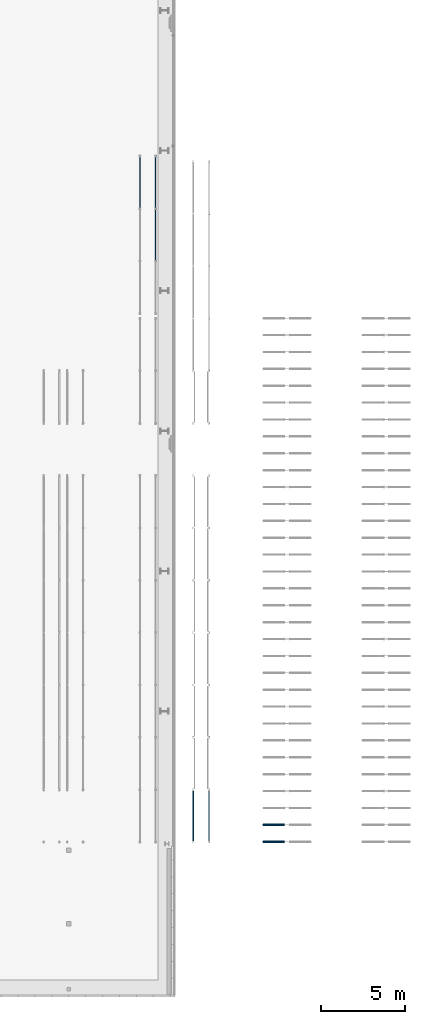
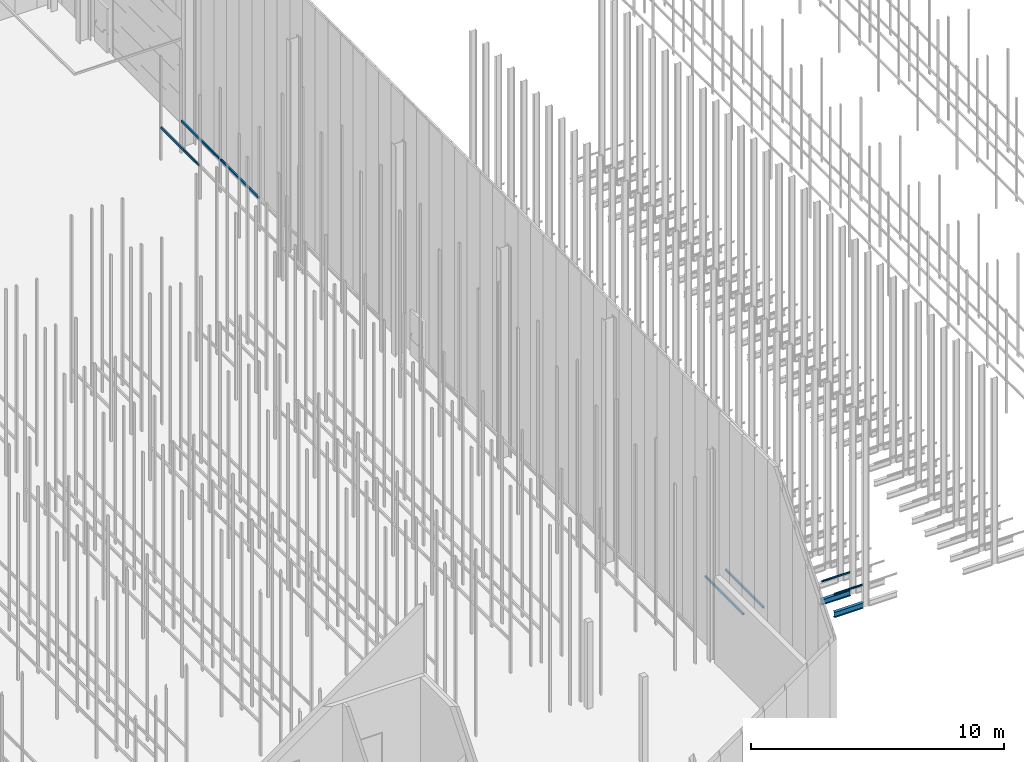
# One storey, part 157 of 302: 9 beams.
"""IFC2X3 building model written with IfcOpenShell, lengths in metres."""

from ifc_helpers import new_model, entity, si_unit, converted_unit, derived_unit, direction, frame, frame_2d, origin, place, context, subcontext, project, spatial, polyline, circle_curve, parameter, trimmed, segment, composite_curve, i_section, outline, extrude, material, type_object, element, save


model = new_model("IFC2X3")

# Units and contexts
model_context = context("Model", 3, precision=1e-05, world=origin(), true_north=direction((6.12303176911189e-17, 1.0)))
body_context = subcontext(model_context, "Body", "Model", "MODEL_VIEW")
ifc_project = project(units=[si_unit("LENGTHUNIT", "METRE"), si_unit("AREAUNIT", "SQUARE_METRE"), si_unit("VOLUMEUNIT", "CUBIC_METRE"), converted_unit("PLANEANGLEUNIT", "DEGREE", entity("IfcRatioMeasure", 0.0174532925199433), si_unit("PLANEANGLEUNIT", "RADIAN"), dimensions=[0, 0, 0, 0, 0, 0, 0]), si_unit("MASSUNIT", "GRAM", prefix="KILO"), derived_unit("MASSDENSITYUNIT", [(si_unit("MASSUNIT", "GRAM", prefix="KILO"), 1), (si_unit("LENGTHUNIT", "METRE"), -3)]), derived_unit("MOMENTOFINERTIAUNIT", [(si_unit("LENGTHUNIT", "METRE"), 4)]), si_unit("TIMEUNIT", "SECOND"), si_unit("FREQUENCYUNIT", "HERTZ"), si_unit("THERMODYNAMICTEMPERATUREUNIT", "DEGREE_CELSIUS"), derived_unit("THERMALTRANSMITTANCEUNIT", [(si_unit("MASSUNIT", "GRAM", prefix="KILO"), 1), (si_unit("THERMODYNAMICTEMPERATUREUNIT", "KELVIN"), -1), (si_unit("TIMEUNIT", "SECOND"), -3)]), derived_unit("VOLUMETRICFLOWRATEUNIT", [(si_unit("LENGTHUNIT", "METRE"), 3), (si_unit("TIMEUNIT", "SECOND"), -1)]), si_unit("ELECTRICCURRENTUNIT", "AMPERE"), si_unit("ELECTRICVOLTAGEUNIT", "VOLT"), si_unit("POWERUNIT", "WATT"), si_unit("FORCEUNIT", "NEWTON", prefix="KILO"), si_unit("ILLUMINANCEUNIT", "LUX"), si_unit("LUMINOUSFLUXUNIT", "LUMEN"), si_unit("LUMINOUSINTENSITYUNIT", "CANDELA"), derived_unit("USERDEFINED", [(si_unit("MASSUNIT", "GRAM", prefix="KILO"), -1), (si_unit("LENGTHUNIT", "METRE"), -2), (si_unit("TIMEUNIT", "SECOND"), 3), (si_unit("LUMINOUSFLUXUNIT", "LUMEN"), 1)]), derived_unit("LINEARVELOCITYUNIT", [(si_unit("LENGTHUNIT", "METRE"), 1), (si_unit("TIMEUNIT", "SECOND"), -1)]), si_unit("PRESSUREUNIT", "PASCAL"), derived_unit("USERDEFINED", [(si_unit("LENGTHUNIT", "METRE"), -2), (si_unit("MASSUNIT", "GRAM", prefix="KILO"), 1), (si_unit("TIMEUNIT", "SECOND"), -2)]), derived_unit("LINEARFORCEUNIT", [(si_unit("MASSUNIT", "GRAM", prefix="KILO"), 1), (si_unit("LENGTHUNIT", "METRE"), 1), (si_unit("TIMEUNIT", "SECOND"), -2), (si_unit("LENGTHUNIT", "METRE"), -1)]), derived_unit("PLANARFORCEUNIT", [(si_unit("MASSUNIT", "GRAM", prefix="KILO"), 1), (si_unit("LENGTHUNIT", "METRE"), 1), (si_unit("TIMEUNIT", "SECOND"), -2), (si_unit("LENGTHUNIT", "METRE"), -2)])], contexts=[model_context])

# Site, building, storey
site_placement = place(None, origin())
site = spatial("IfcSite", under=ifc_project, at=site_placement, Name="Default", CompositionType="ELEMENT")
building_placement = place(site_placement, origin())
building = spatial("IfcBuilding", under=site, at=building_placement, CompositionType="ELEMENT")
storey_placement = place(building_placement, frame((0.0, 0.0, -1.3)))
storey = spatial("IfcBuildingStorey", under=building, at=storey_placement, Name="00_EG", CompositionType="ELEMENT", Elevation=-1.3)

# Beams
ifc_material_1 = material(Name="Metall - Baustahl S235 blau")
beam_type_1 = type_object("IfcBeamType", Name="RHS Träger (EN 10219-2):RHS 100 x 75 x 5", PredefinedType="NOTDEFINED")
beam_1_placement = place(storey_placement, frame((-179.315111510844, 61.5488562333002, 2.885), z_axis=(0.0, 0.0, 1.0), x_axis=(0.0, 1.0, 0.0)))
element("IfcBeam", 1, at=beam_1_placement, inside=storey, type_object=beam_type_1, material=ifc_material_1, Name="RHS Träger (EN 10219-2):RHS 100 x 75 x 5", ObjectType="RHS Träger (EN 10219-2):RHS 100 x 75 x 5", context=body_context, shape_type="SweptSolid", body=[
    extrude(outline(composite_curve([segment(trimmed(circle_curve(frame_2d((-0.0274999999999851, -0.0400000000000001), x_axis=(1.0, 0.0)), 0.01), [parameter(180.0)], [parameter(270.0)], True, "PARAMETER"), True, "CONTINUOUS"), segment(polyline([(-0.0274999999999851, -0.0500000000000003), (0.0274999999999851, -0.0500000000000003)]), True, "CONTINUOUS"), segment(trimmed(circle_curve(frame_2d((0.0274999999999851, -0.0400000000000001), x_axis=(1.0, 0.0)), 0.01), [parameter(270.0)], [parameter(5.08888749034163e-14)], True, "PARAMETER"), True, "CONTINUOUS"), segment(polyline([(0.0375000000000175, -0.0400000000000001), (0.0375000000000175, 0.0399999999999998)]), True, "CONTINUOUS"), segment(trimmed(circle_curve(frame_2d((0.0274999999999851, 0.0399999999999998), x_axis=(1.0, 0.0)), 0.01), [parameter(360.0)], [parameter(89.9999999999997)], True, "PARAMETER"), True, "CONTINUOUS"), segment(polyline([(0.0274999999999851, 0.0499999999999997), (-0.0274999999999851, 0.0499999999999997)]), True, "CONTINUOUS"), segment(trimmed(circle_curve(frame_2d((-0.0274999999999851, 0.0399999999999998), x_axis=(1.0, 0.0)), 0.01), [parameter(90.0000000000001)], [parameter(180.0)], True, "PARAMETER"), True, "CONTINUOUS"), segment(polyline([(-0.0374999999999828, 0.0399999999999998), (-0.0374999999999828, -0.0400000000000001)]), True, "CONTINUOUS")], self_intersect=False), holes=[composite_curve([segment(polyline([(0.0274999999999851, -0.0450000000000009), (-0.0274999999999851, -0.0450000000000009)]), True, "CONTINUOUS"), segment(trimmed(circle_curve(frame_2d((-0.0274999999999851, -0.0400000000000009), x_axis=(1.0, 0.0)), 0.005), [parameter(180.0)], [parameter(270.0)], True, "PARAMETER"), False, "CONTINUOUS"), segment(polyline([(-0.0325000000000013, -0.0400000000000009), (-0.0325000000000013, 0.039999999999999)]), True, "CONTINUOUS"), segment(trimmed(circle_curve(frame_2d((-0.0274999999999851, 0.039999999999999), x_axis=(1.0, 0.0)), 0.005), [parameter(90.0000000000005)], [parameter(180.0)], True, "PARAMETER"), False, "CONTINUOUS"), segment(polyline([(-0.0274999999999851, 0.044999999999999), (0.0274999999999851, 0.044999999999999)]), True, "CONTINUOUS"), segment(trimmed(circle_curve(frame_2d((0.0274999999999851, 0.039999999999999), x_axis=(1.0, 0.0)), 0.005), [parameter(0.0)], [parameter(90.0000000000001)], True, "PARAMETER"), False, "CONTINUOUS"), segment(polyline([(0.0325000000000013, 0.039999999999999), (0.0325000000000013, -0.0400000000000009)]), True, "CONTINUOUS"), segment(trimmed(circle_curve(frame_2d((0.0274999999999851, -0.0400000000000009), x_axis=(1.0, 0.0)), 0.005), [parameter(270.0)], [parameter(4.07110999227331e-13)], True, "PARAMETER"), False, "CONTINUOUS")], self_intersect=False)]), frame((-0.000799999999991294, 0.0375000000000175, -0.0500000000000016), z_axis=(1.0, 0.0, 0.0), x_axis=(0.0, -1.0, 0.0)), (0.0, 0.0, 1.0), 3.00069999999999),
])
beam_2_placement = place(storey_placement, frame((-178.465111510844, 61.5488562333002, 2.885), z_axis=(0.0, 0.0, 1.0), x_axis=(0.0, 1.0, 0.0)))
element("IfcBeam", 2, at=beam_2_placement, inside=storey, type_object=beam_type_1, material=ifc_material_1, Name="RHS Träger (EN 10219-2):RHS 100 x 75 x 5", ObjectType="RHS Träger (EN 10219-2):RHS 100 x 75 x 5", context=body_context, shape_type="SweptSolid", body=[
    extrude(outline(composite_curve([segment(polyline([(-0.0399999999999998, -0.0374999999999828), (0.0400000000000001, -0.0374999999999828)]), True, "CONTINUOUS"), segment(trimmed(circle_curve(frame_2d((0.0400000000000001, -0.0274999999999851), x_axis=(0.0, 1.0)), 0.01), [parameter(180.0)], [parameter(270.0)], True, "PARAMETER"), True, "CONTINUOUS"), segment(polyline([(0.05, -0.0274999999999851), (0.05, 0.0274999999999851)]), True, "CONTINUOUS"), segment(trimmed(circle_curve(frame_2d((0.0400000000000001, 0.0274999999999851), x_axis=(0.0, 1.0)), 0.01), [parameter(270.0)], [parameter(4.07110999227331e-13)], True, "PARAMETER"), True, "CONTINUOUS"), segment(polyline([(0.0400000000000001, 0.0375000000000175), (-0.0399999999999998, 0.0375000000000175)]), True, "CONTINUOUS"), segment(trimmed(circle_curve(frame_2d((-0.0399999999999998, 0.0274999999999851), x_axis=(0.0, 1.0)), 0.01), [parameter(360.0)], [parameter(90.0000000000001)], True, "PARAMETER"), True, "CONTINUOUS"), segment(polyline([(-0.05, 0.0274999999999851), (-0.05, -0.0274999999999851)]), True, "CONTINUOUS"), segment(trimmed(circle_curve(frame_2d((-0.0399999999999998, -0.0274999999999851), x_axis=(0.0, 1.0)), 0.01), [parameter(90.0000000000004)], [parameter(180.0)], True, "PARAMETER"), True, "CONTINUOUS")], self_intersect=False), holes=[composite_curve([segment(trimmed(circle_curve(frame_2d((-0.0400000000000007, 0.0274999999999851), x_axis=(0.0, 1.0)), 0.005), [parameter(360.0)], [parameter(89.9999999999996)], True, "PARAMETER"), False, "CONTINUOUS"), segment(polyline([(-0.0400000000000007, 0.0325000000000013), (0.0399999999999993, 0.0325000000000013)]), True, "CONTINUOUS"), segment(trimmed(circle_curve(frame_2d((0.0399999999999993, 0.0274999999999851), x_axis=(0.0, 1.0)), 0.005), [parameter(270.0)], [parameter(0.0)], True, "PARAMETER"), False, "CONTINUOUS"), segment(polyline([(0.0449999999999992, 0.0274999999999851), (0.0449999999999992, -0.0274999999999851)]), True, "CONTINUOUS"), segment(trimmed(circle_curve(frame_2d((0.0399999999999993, -0.0274999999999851), x_axis=(0.0, 1.0)), 0.005), [parameter(180.0)], [parameter(269.999999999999)], True, "PARAMETER"), False, "CONTINUOUS"), segment(polyline([(0.0399999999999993, -0.0325000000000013), (-0.0400000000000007, -0.0325000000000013)]), True, "CONTINUOUS"), segment(trimmed(circle_curve(frame_2d((-0.0400000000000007, -0.0274999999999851), x_axis=(0.0, 1.0)), 0.005), [parameter(90.0000000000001)], [parameter(180.0)], True, "PARAMETER"), False, "CONTINUOUS"), segment(polyline([(-0.0450000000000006, -0.0274999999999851), (-0.0450000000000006, 0.0274999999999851)]), True, "CONTINUOUS")], self_intersect=False)]), frame((-0.000799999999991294, -0.0375000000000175, -0.0500000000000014), z_axis=(1.0, 0.0, 0.0), x_axis=(0.0, 0.0, -1.0)), (0.0, 0.0, 1.0), 3.00069999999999),
])
beam_3_placement = place(storey_placement, frame((-178.465111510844, 58.4480889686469, 2.885), z_axis=(0.0, 0.0, 1.0), x_axis=(0.0, 1.0, 0.0)))
element("IfcBeam", 3, at=beam_3_placement, inside=storey, type_object=beam_type_1, material=ifc_material_1, Name="RHS Träger (EN 10219-2):RHS 100 x 75 x 5", ObjectType="RHS Träger (EN 10219-2):RHS 100 x 75 x 5", context=body_context, shape_type="SweptSolid", body=[
    extrude(outline(composite_curve([segment(polyline([(-0.0399999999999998, -0.0374999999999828), (0.0400000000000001, -0.0374999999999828)]), True, "CONTINUOUS"), segment(trimmed(circle_curve(frame_2d((0.0399999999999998, -0.0274999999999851), x_axis=(0.0, 1.0)), 0.01), [parameter(180.0)], [parameter(270.0)], True, "PARAMETER"), True, "CONTINUOUS"), segment(polyline([(0.05, -0.0274999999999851), (0.05, 0.0274999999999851)]), True, "CONTINUOUS"), segment(trimmed(circle_curve(frame_2d((0.0399999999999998, 0.0274999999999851), x_axis=(0.0, 1.0)), 0.01), [parameter(270.0)], [parameter(4.07110999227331e-13)], True, "PARAMETER"), True, "CONTINUOUS"), segment(polyline([(0.0400000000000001, 0.0375000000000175), (-0.0399999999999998, 0.0375000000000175)]), True, "CONTINUOUS"), segment(trimmed(circle_curve(frame_2d((-0.0400000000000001, 0.0274999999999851), x_axis=(0.0, 1.0)), 0.01), [parameter(360.0)], [parameter(90.0000000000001)], True, "PARAMETER"), True, "CONTINUOUS"), segment(polyline([(-0.05, 0.0274999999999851), (-0.05, -0.0274999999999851)]), True, "CONTINUOUS"), segment(trimmed(circle_curve(frame_2d((-0.0400000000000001, -0.0274999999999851), x_axis=(0.0, 1.0)), 0.01), [parameter(90.0000000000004)], [parameter(180.0)], True, "PARAMETER"), True, "CONTINUOUS")], self_intersect=False), holes=[composite_curve([segment(trimmed(circle_curve(frame_2d((-0.0400000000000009, 0.0274999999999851), x_axis=(0.0, 1.0)), 0.005), [parameter(360.0)], [parameter(89.9999999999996)], True, "PARAMETER"), False, "CONTINUOUS"), segment(polyline([(-0.0400000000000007, 0.0325000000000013), (0.0399999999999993, 0.0325000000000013)]), True, "CONTINUOUS"), segment(trimmed(circle_curve(frame_2d((0.039999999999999, 0.0274999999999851), x_axis=(0.0, 1.0)), 0.005), [parameter(270.0)], [parameter(0.0)], True, "PARAMETER"), False, "CONTINUOUS"), segment(polyline([(0.0449999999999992, 0.0274999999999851), (0.0449999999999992, -0.0274999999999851)]), True, "CONTINUOUS"), segment(trimmed(circle_curve(frame_2d((0.039999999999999, -0.0274999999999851), x_axis=(0.0, 1.0)), 0.005), [parameter(180.0)], [parameter(269.999999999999)], True, "PARAMETER"), False, "CONTINUOUS"), segment(polyline([(0.0399999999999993, -0.0325000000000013), (-0.0400000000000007, -0.0325000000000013)]), True, "CONTINUOUS"), segment(trimmed(circle_curve(frame_2d((-0.0400000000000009, -0.0274999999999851), x_axis=(0.0, 1.0)), 0.005), [parameter(90.0000000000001)], [parameter(180.0)], True, "PARAMETER"), False, "CONTINUOUS"), segment(polyline([(-0.0450000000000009, -0.0274999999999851), (-0.0450000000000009, 0.0274999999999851)]), True, "CONTINUOUS")], self_intersect=False)]), frame((9.99999999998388e-05, -0.0375000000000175, -0.0500000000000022), z_axis=(1.0, 0.0, 0.0), x_axis=(0.0, 0.0, -1.0)), (0.0, 0.0, 1.0), 2.99979999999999),
])
beam_4_placement = place(storey_placement, frame((-175.305111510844, 24.048088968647, 2.885), z_axis=(0.0, 0.0, 1.0), x_axis=(0.0, 1.0, 0.0)))
element("IfcBeam", 4, at=beam_4_placement, inside=storey, type_object=beam_type_1, material=ifc_material_1, Name="RHS Träger (EN 10219-2):RHS 100 x 75 x 5", ObjectType="RHS Träger (EN 10219-2):RHS 100 x 75 x 5", context=body_context, shape_type="SweptSolid", body=[
    extrude(outline(composite_curve([segment(polyline([(-0.0399999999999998, -0.0374999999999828), (0.0400000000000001, -0.0374999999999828)]), True, "CONTINUOUS"), segment(trimmed(circle_curve(frame_2d((0.0399999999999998, -0.0274999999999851), x_axis=(0.0, 1.0)), 0.01), [parameter(180.0)], [parameter(270.0)], True, "PARAMETER"), True, "CONTINUOUS"), segment(polyline([(0.05, -0.0274999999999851), (0.05, 0.0274999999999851)]), True, "CONTINUOUS"), segment(trimmed(circle_curve(frame_2d((0.0399999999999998, 0.0274999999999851), x_axis=(0.0, 1.0)), 0.01), [parameter(270.0)], [parameter(4.07110999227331e-13)], True, "PARAMETER"), True, "CONTINUOUS"), segment(polyline([(0.0400000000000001, 0.0375000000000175), (-0.0399999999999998, 0.0375000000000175)]), True, "CONTINUOUS"), segment(trimmed(circle_curve(frame_2d((-0.0400000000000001, 0.0274999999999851), x_axis=(0.0, 1.0)), 0.01), [parameter(360.0)], [parameter(90.0000000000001)], True, "PARAMETER"), True, "CONTINUOUS"), segment(polyline([(-0.05, 0.0274999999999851), (-0.05, -0.0274999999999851)]), True, "CONTINUOUS"), segment(trimmed(circle_curve(frame_2d((-0.0400000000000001, -0.0274999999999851), x_axis=(0.0, 1.0)), 0.01), [parameter(90.0000000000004)], [parameter(180.0)], True, "PARAMETER"), True, "CONTINUOUS")], self_intersect=False), holes=[composite_curve([segment(trimmed(circle_curve(frame_2d((-0.0400000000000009, 0.0274999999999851), x_axis=(0.0, 1.0)), 0.005), [parameter(360.0)], [parameter(89.9999999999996)], True, "PARAMETER"), False, "CONTINUOUS"), segment(polyline([(-0.0400000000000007, 0.0325000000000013), (0.0399999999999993, 0.0325000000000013)]), True, "CONTINUOUS"), segment(trimmed(circle_curve(frame_2d((0.039999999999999, 0.0274999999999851), x_axis=(0.0, 1.0)), 0.005), [parameter(270.0)], [parameter(0.0)], True, "PARAMETER"), False, "CONTINUOUS"), segment(polyline([(0.0449999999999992, 0.0274999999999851), (0.0449999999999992, -0.0274999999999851)]), True, "CONTINUOUS"), segment(trimmed(circle_curve(frame_2d((0.039999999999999, -0.0274999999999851), x_axis=(0.0, 1.0)), 0.005), [parameter(180.0)], [parameter(269.999999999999)], True, "PARAMETER"), False, "CONTINUOUS"), segment(polyline([(0.0399999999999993, -0.0325000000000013), (-0.0400000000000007, -0.0325000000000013)]), True, "CONTINUOUS"), segment(trimmed(circle_curve(frame_2d((-0.0400000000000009, -0.0274999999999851), x_axis=(0.0, 1.0)), 0.005), [parameter(90.0000000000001)], [parameter(180.0)], True, "PARAMETER"), False, "CONTINUOUS"), segment(polyline([(-0.0450000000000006, -0.0274999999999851), (-0.0450000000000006, 0.0274999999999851)]), True, "CONTINUOUS")], self_intersect=False)]), frame((9.99999999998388e-05, -0.0375000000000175, -0.0500000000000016), z_axis=(1.0, 0.0, 0.0), x_axis=(0.0, 0.0, -1.0)), (0.0, 0.0, 1.0), 2.9998),
])
beam_5_placement = place(storey_placement, frame((-176.155111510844, 24.048088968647, 2.885), z_axis=(0.0, 0.0, 1.0), x_axis=(0.0, 1.0, 0.0)))
element("IfcBeam", 5, at=beam_5_placement, inside=storey, type_object=beam_type_1, material=ifc_material_1, Name="RHS Träger (EN 10219-2):RHS 100 x 75 x 5", ObjectType="RHS Träger (EN 10219-2):RHS 100 x 75 x 5", context=body_context, shape_type="SweptSolid", body=[
    extrude(outline(composite_curve([segment(trimmed(circle_curve(frame_2d((-0.0274999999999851, -0.0400000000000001), x_axis=(1.0, 0.0)), 0.01), [parameter(180.0)], [parameter(270.0)], True, "PARAMETER"), True, "CONTINUOUS"), segment(polyline([(-0.0274999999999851, -0.05), (0.0274999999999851, -0.05)]), True, "CONTINUOUS"), segment(trimmed(circle_curve(frame_2d((0.0274999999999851, -0.0400000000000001), x_axis=(1.0, 0.0)), 0.01), [parameter(270.0)], [parameter(5.08888749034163e-14)], True, "PARAMETER"), True, "CONTINUOUS"), segment(polyline([(0.0375000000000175, -0.0399999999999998), (0.0375000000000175, 0.0400000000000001)]), True, "CONTINUOUS"), segment(trimmed(circle_curve(frame_2d((0.0274999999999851, 0.0399999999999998), x_axis=(1.0, 0.0)), 0.01), [parameter(360.0)], [parameter(89.9999999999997)], True, "PARAMETER"), True, "CONTINUOUS"), segment(polyline([(0.0274999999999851, 0.05), (-0.0274999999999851, 0.05)]), True, "CONTINUOUS"), segment(trimmed(circle_curve(frame_2d((-0.0274999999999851, 0.0399999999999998), x_axis=(1.0, 0.0)), 0.01), [parameter(90.0000000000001)], [parameter(180.0)], True, "PARAMETER"), True, "CONTINUOUS"), segment(polyline([(-0.0374999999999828, 0.0400000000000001), (-0.0374999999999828, -0.0399999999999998)]), True, "CONTINUOUS")], self_intersect=False), holes=[composite_curve([segment(polyline([(0.0274999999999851, -0.0450000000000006), (-0.0274999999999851, -0.0450000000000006)]), True, "CONTINUOUS"), segment(trimmed(circle_curve(frame_2d((-0.0274999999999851, -0.0400000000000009), x_axis=(1.0, 0.0)), 0.005), [parameter(180.0)], [parameter(270.0)], True, "PARAMETER"), False, "CONTINUOUS"), segment(polyline([(-0.0325000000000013, -0.0400000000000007), (-0.0325000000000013, 0.0399999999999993)]), True, "CONTINUOUS"), segment(trimmed(circle_curve(frame_2d((-0.0274999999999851, 0.039999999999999), x_axis=(1.0, 0.0)), 0.005), [parameter(90.0000000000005)], [parameter(180.0)], True, "PARAMETER"), False, "CONTINUOUS"), segment(polyline([(-0.0274999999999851, 0.0449999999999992), (0.0274999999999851, 0.0449999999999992)]), True, "CONTINUOUS"), segment(trimmed(circle_curve(frame_2d((0.0274999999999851, 0.039999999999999), x_axis=(1.0, 0.0)), 0.005), [parameter(0.0)], [parameter(90.0000000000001)], True, "PARAMETER"), False, "CONTINUOUS"), segment(polyline([(0.0325000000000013, 0.0399999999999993), (0.0325000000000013, -0.0400000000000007)]), True, "CONTINUOUS"), segment(trimmed(circle_curve(frame_2d((0.0274999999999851, -0.0400000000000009), x_axis=(1.0, 0.0)), 0.005), [parameter(270.0)], [parameter(4.07110999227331e-13)], True, "PARAMETER"), False, "CONTINUOUS")], self_intersect=False)]), frame((9.99999999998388e-05, 0.0375000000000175, -0.0500000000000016), z_axis=(1.0, 0.0, 0.0), x_axis=(0.0, -1.0, 0.0)), (0.0, 0.0, 1.0), 2.9998),
])
ifc_material_2 = material(Name="Metall - Baustahl S235")
beam_type_2 = type_object("IfcBeamType", Name="IPN Träger:IPN 80", PredefinedType="NOTDEFINED")
beam_6_placement = place(storey_placement, frame((-170.780111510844, 25.036588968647, 2.42), z_axis=(0.0, 0.0, 1.0), x_axis=(-1.0, 0.0, 0.0)))
element("IfcBeam", 6, at=beam_6_placement, inside=storey, type_object=beam_type_2, material=ifc_material_2, Name="IPN Träger:IPN 80", ObjectType="IPN Träger:IPN 80", context=body_context, shape_type="SweptSolid", body=[
    extrude(outline(composite_curve([segment(polyline([(0.0375704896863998, -0.0209999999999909), (0.0399999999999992, -0.0209999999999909)]), True, "CONTINUOUS"), segment(polyline([(0.0399999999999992, -0.0209999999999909), (0.0399999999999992, 0.0210000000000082)]), True, "CONTINUOUS"), segment(polyline([(0.039999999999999, 0.0210000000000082), (0.037570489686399, 0.0210000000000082)]), True, "CONTINUOUS"), segment(trimmed(circle_curve(frame_2d((0.037570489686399, 0.0187000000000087), x_axis=(0.0, 1.0)), 0.00230000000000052), [parameter(0.0)], [parameter(82.0299999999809)], True, "PARAMETER"), True, "CONTINUOUS"), segment(polyline([(0.0352927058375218, 0.0190189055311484), (0.0333732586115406, 0.00530924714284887)]), True, "CONTINUOUS"), segment(trimmed(circle_curve(frame_2d((0.0295109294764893, 0.00585000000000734), x_axis=(0.990340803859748, -0.138654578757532)), 0.00389999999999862), [parameter(277.969999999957)], [parameter(0.0)], True, "PARAMETER"), False, "CONTINUOUS"), segment(polyline([(0.0295109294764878, 0.00195000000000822), (-0.0295109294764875, 0.00195000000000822)]), True, "CONTINUOUS"), segment(trimmed(circle_curve(frame_2d((-0.029510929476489, 0.00585000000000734), x_axis=(0.0, -1.0)), 0.00389999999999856), [parameter(277.969999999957)], [parameter(0.0)], True, "PARAMETER"), False, "CONTINUOUS"), segment(polyline([(-0.0333732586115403, 0.0053092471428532), (-0.0352927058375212, 0.0190189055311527)]), True, "CONTINUOUS"), segment(trimmed(circle_curve(frame_2d((-0.0375704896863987, 0.0187000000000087), x_axis=(0.990340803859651, 0.138654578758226)), 0.00230000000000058), [parameter(0.0)], [parameter(82.029999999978)], True, "PARAMETER"), True, "CONTINUOUS"), segment(polyline([(-0.0375704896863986, 0.0210000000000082), (-0.0400000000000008, 0.0210000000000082)]), True, "CONTINUOUS"), segment(polyline([(-0.0400000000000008, 0.0210000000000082), (-0.0400000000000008, -0.0209999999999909)]), True, "CONTINUOUS"), segment(polyline([(-0.0400000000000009, -0.0209999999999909), (-0.037570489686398, -0.0209999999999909)]), True, "CONTINUOUS"), segment(trimmed(circle_curve(frame_2d((-0.0375704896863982, -0.0186999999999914), x_axis=(0.0, -1.0)), 0.00230000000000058), [parameter(0.0)], [parameter(82.029999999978)], True, "PARAMETER"), True, "CONTINUOUS"), segment(polyline([(-0.0352927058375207, -0.019018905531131), (-0.0333732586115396, -0.00530924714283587)]), True, "CONTINUOUS"), segment(trimmed(circle_curve(frame_2d((-0.0295109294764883, -0.00584999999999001), x_axis=(-0.990340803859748, 0.138654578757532)), 0.00389999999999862), [parameter(277.969999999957)], [parameter(0.0)], True, "PARAMETER"), False, "CONTINUOUS"), segment(polyline([(-0.0295109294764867, -0.00194999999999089), (0.0295109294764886, -0.00194999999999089)]), True, "CONTINUOUS"), segment(trimmed(circle_curve(frame_2d((0.0295109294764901, -0.00584999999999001), x_axis=(0.0, 1.0)), 0.00389999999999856), [parameter(277.969999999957)], [parameter(0.0)], True, "PARAMETER"), False, "CONTINUOUS"), segment(polyline([(0.0333732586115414, -0.00530924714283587), (0.0352927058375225, -0.0190189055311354)]), True, "CONTINUOUS"), segment(trimmed(circle_curve(frame_2d((0.0375704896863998, -0.0186999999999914), x_axis=(-0.990340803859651, -0.138654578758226)), 0.00230000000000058), [parameter(0.0)], [parameter(82.029999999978)], True, "PARAMETER"), True, "CONTINUOUS")], self_intersect=False)), frame((0.000100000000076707, 0.0209999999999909, -0.0400000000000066), z_axis=(1.0, 0.0, 0.0), x_axis=(0.0, 0.0, -1.0)), (0.0, 0.0, 1.0), 1.29990000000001),
])
beam_7_placement = place(storey_placement, frame((-170.780111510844, 24.036588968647, 2.42), z_axis=(0.0, 0.0, 1.0), x_axis=(-1.0, 0.0, 0.0)))
element("IfcBeam", 7, at=beam_7_placement, inside=storey, type_object=beam_type_2, material=ifc_material_2, Name="IPN Träger:IPN 80", ObjectType="IPN Träger:IPN 80", context=body_context, shape_type="SweptSolid", body=[
    extrude(outline(composite_curve([segment(polyline([(0.0375704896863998, -0.0210000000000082), (0.0399999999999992, -0.0210000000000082)]), True, "CONTINUOUS"), segment(polyline([(0.0399999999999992, -0.0210000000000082), (0.0399999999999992, 0.0209999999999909)]), True, "CONTINUOUS"), segment(polyline([(0.039999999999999, 0.0209999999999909), (0.037570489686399, 0.0209999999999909)]), True, "CONTINUOUS"), segment(trimmed(circle_curve(frame_2d((0.037570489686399, 0.0186999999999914), x_axis=(0.0, 1.0)), 0.00230000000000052), [parameter(0.0)], [parameter(82.0299999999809)], True, "PARAMETER"), True, "CONTINUOUS"), segment(polyline([(0.0352927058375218, 0.019018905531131), (0.0333732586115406, 0.00530924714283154)]), True, "CONTINUOUS"), segment(trimmed(circle_curve(frame_2d((0.0295109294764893, 0.00584999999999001), x_axis=(0.990340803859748, -0.138654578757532)), 0.00389999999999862), [parameter(277.969999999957)], [parameter(0.0)], True, "PARAMETER"), False, "CONTINUOUS"), segment(polyline([(0.0295109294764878, 0.00194999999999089), (-0.0295109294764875, 0.00194999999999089)]), True, "CONTINUOUS"), segment(trimmed(circle_curve(frame_2d((-0.029510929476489, 0.00584999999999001), x_axis=(0.0, -1.0)), 0.00389999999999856), [parameter(277.969999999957)], [parameter(0.0)], True, "PARAMETER"), False, "CONTINUOUS"), segment(polyline([(-0.0333732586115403, 0.00530924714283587), (-0.0352927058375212, 0.0190189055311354)]), True, "CONTINUOUS"), segment(trimmed(circle_curve(frame_2d((-0.0375704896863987, 0.0186999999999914), x_axis=(0.990340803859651, 0.138654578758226)), 0.00230000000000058), [parameter(0.0)], [parameter(82.029999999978)], True, "PARAMETER"), True, "CONTINUOUS"), segment(polyline([(-0.0375704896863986, 0.0209999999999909), (-0.0400000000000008, 0.0209999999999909)]), True, "CONTINUOUS"), segment(polyline([(-0.0400000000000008, 0.0209999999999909), (-0.0400000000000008, -0.0210000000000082)]), True, "CONTINUOUS"), segment(polyline([(-0.0400000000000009, -0.0210000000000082), (-0.037570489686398, -0.0210000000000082)]), True, "CONTINUOUS"), segment(trimmed(circle_curve(frame_2d((-0.0375704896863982, -0.0187000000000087), x_axis=(0.0, -1.0)), 0.00230000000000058), [parameter(0.0)], [parameter(82.029999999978)], True, "PARAMETER"), True, "CONTINUOUS"), segment(polyline([(-0.0352927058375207, -0.0190189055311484), (-0.0333732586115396, -0.0053092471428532)]), True, "CONTINUOUS"), segment(trimmed(circle_curve(frame_2d((-0.0295109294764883, -0.00585000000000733), x_axis=(-0.990340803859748, 0.138654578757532)), 0.00389999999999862), [parameter(277.969999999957)], [parameter(0.0)], True, "PARAMETER"), False, "CONTINUOUS"), segment(polyline([(-0.0295109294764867, -0.00195000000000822), (0.0295109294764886, -0.00195000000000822)]), True, "CONTINUOUS"), segment(trimmed(circle_curve(frame_2d((0.0295109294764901, -0.00585000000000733), x_axis=(0.0, 1.0)), 0.00389999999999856), [parameter(277.969999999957)], [parameter(0.0)], True, "PARAMETER"), False, "CONTINUOUS"), segment(polyline([(0.0333732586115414, -0.0053092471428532), (0.0352927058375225, -0.0190189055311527)]), True, "CONTINUOUS"), segment(trimmed(circle_curve(frame_2d((0.0375704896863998, -0.0187000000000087), x_axis=(-0.990340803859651, -0.138654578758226)), 0.00230000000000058), [parameter(0.0)], [parameter(82.029999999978)], True, "PARAMETER"), True, "CONTINUOUS")], self_intersect=False)), frame((0.000100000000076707, 0.0210000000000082, -0.0400000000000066), z_axis=(1.0, 0.0, 0.0), x_axis=(0.0, 0.0, -1.0)), (0.0, 0.0, 1.0), 1.29990000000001),
])
beam_type_3 = type_object("IfcBeamType", Name="IPE Träger:IPE 270", PredefinedType="NOTDEFINED")
beam_8_placement = place(storey_placement, frame((-170.780111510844, 24.083088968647, 1.54000000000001), z_axis=(0.0, 0.0, 1.0), x_axis=(-1.0, 0.0, 0.0)))
element("IfcBeam", 8, at=beam_8_placement, inside=storey, type_object=beam_type_3, material=ifc_material_2, Name="IPE Träger:IPE 270", ObjectType="IPE Träger:IPE 270", context=body_context, shape_type="SweptSolid", body=[
    extrude(i_section(OverallWidth=0.134999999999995, OverallDepth=0.27, WebThickness=0.00660000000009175, FlangeThickness=0.0102000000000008, FilletRadius=0.0150000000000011, at=frame_2d((5.96744875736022e-16, -6.49480469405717e-15), x_axis=(0.0, 1.0))), frame((0.000100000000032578, 0.0675000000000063, -0.135000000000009), z_axis=(1.0, 0.0, 0.0), x_axis=(0.0, 0.0, -1.0)), (0.0, 0.0, 1.0), 1.29990000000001),
])
beam_9_placement = place(storey_placement, frame((-170.780111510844, 25.083088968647, 1.54000000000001), z_axis=(0.0, 0.0, 1.0), x_axis=(-1.0, 0.0, 0.0)))
element("IfcBeam", 9, at=beam_9_placement, inside=storey, type_object=beam_type_3, material=ifc_material_2, Name="IPE Träger:IPE 270", ObjectType="IPE Träger:IPE 270", context=body_context, shape_type="SweptSolid", body=[
    extrude(i_section(OverallWidth=0.134999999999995, OverallDepth=0.27, WebThickness=0.00660000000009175, FlangeThickness=0.0102000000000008, FilletRadius=0.0150000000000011, at=frame_2d((5.96744875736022e-16, 2.16493489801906e-15), x_axis=(0.0, 1.0))), frame((0.000100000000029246, 0.0674999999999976, -0.135000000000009), z_axis=(1.0, 0.0, 0.0), x_axis=(0.0, 0.0, -1.0)), (0.0, 0.0, 1.0), 1.29990000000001),
])

save(model, "model.ifc")
